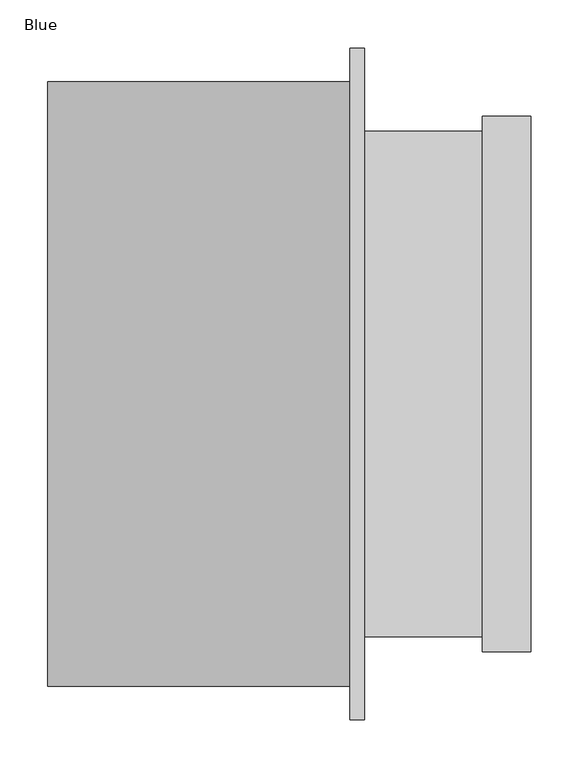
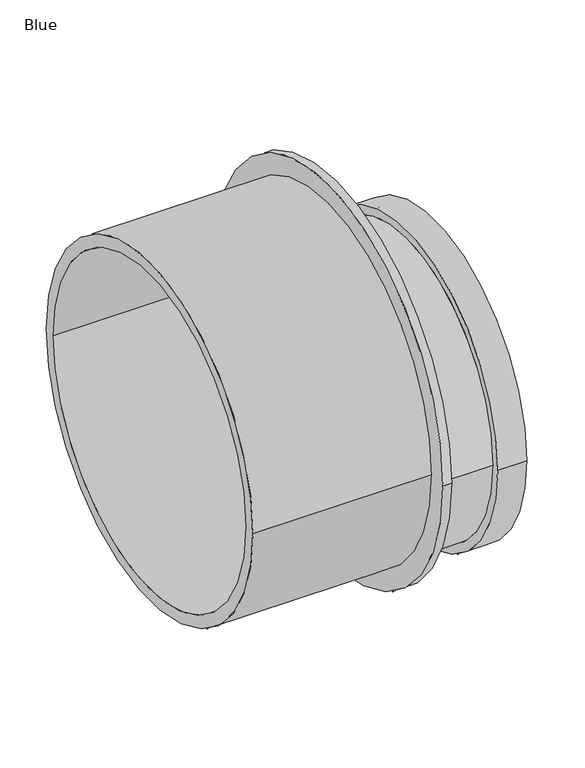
"""IFC4 building model written with IfcOpenShell, lengths in millimetres: pipe fitting geometry, AWADUKT PP Transition : Blue."""

from ifc_helpers import new_model, si_unit, point, frame, frame_2d, origin, origin_2d, place, context, project, spatial, polyline, circle_curve, trimmed, segment, composite_curve, outline, extrude, source, transform, mapped, element, save
from ifc_brep_helpers import plane_surface, cylinder_surface, revolved_surface, advanced_brep


def blue_be33dc46(model_context):
    return source(origin(), model_context, "Body", "SolidModel", [
        extrude(outline(composite_curve([segment(trimmed(circle_curve(origin_2d(), 350.0), [point((-350.0, 0.0))], [point((350.0, 0.0))], False, "CARTESIAN"), True, "CONTINUOUS"), segment(trimmed(circle_curve(origin_2d(), 350.0), [point((350.0, 0.0))], [point((-350.0, 0.0))], False, "CARTESIAN"), True, "CONTINUOUS")], self_intersect=False), holes=[composite_curve([segment(trimmed(circle_curve(frame_2d((0.0, -61.9)), 233.05), [point((-233.05, -61.9))], [point((233.05, -61.9))], True, "CARTESIAN"), True, "CONTINUOUS"), segment(trimmed(circle_curve(frame_2d((0.0, -61.9)), 233.05), [point((233.05, -61.9))], [point((-233.05, -61.9))], True, "CARTESIAN"), True, "CONTINUOUS")], self_intersect=False)]), frame((326.0, 0.0, 0.0), z_axis=(1.0, 0.0, 0.0), x_axis=(0.0, 1.0, 0.0)), (0.0, 0.0, 1.0), 15.0),
        advanced_brep(
        [(463.7, -263.2, -61.9), (463.7, 263.2, -61.9), (341.0, 263.2, -61.9), (341.0, -263.2, -61.9), (514.5, -278.9, -61.9), (514.5, 278.9, -61.9), (463.7, 278.9, -61.9), (463.7, -278.9, -61.9), (501.3, -250.0, -61.9), (501.3, 250.0, -61.9), (514.5, 250.0, -61.9), (514.5, -250.0, -61.9), (476.9, -263.2, -61.9), (476.9, 263.2, -61.9), (501.3, 263.2, -61.9), (501.3, -263.2, -61.9), (341.0, -250.0, -61.9), (341.0, 250.0, -61.9), (476.9, 250.0, -61.9), (476.9, -250.0, -61.9)],
        [
            (0, 1, circle_curve(frame((463.7, 0.0, -61.9), z_axis=(-1.0, 0.0, 0.0), x_axis=(0.0, 1.0, 0.0)), 263.2)),
            (1, 2),
            (2, 3, circle_curve(frame((341.0, 0.0, -61.9), z_axis=(1.0, 0.0, 0.0), x_axis=(0.0, 1.0, 0.0)), 263.2)),
            (3, 0),
            (4, 5, circle_curve(frame((514.5, 0.0, -61.9), z_axis=(-1.0, 0.0, 0.0), x_axis=(0.0, 1.0, 0.0)), 278.9)),
            (5, 6),
            (6, 7, circle_curve(frame((463.7, 0.0, -61.9), z_axis=(1.0, 0.0, 0.0), x_axis=(0.0, 1.0, 0.0)), 278.9)),
            (7, 4),
            (8, 9, circle_curve(frame((501.3, 0.0, -61.9), z_axis=(-1.0, 0.0, 0.0), x_axis=(0.0, 1.0, 0.0)), 250.0)),
            (9, 10),
            (10, 11, circle_curve(frame((514.5, 0.0, -61.9), z_axis=(1.0, 0.0, 0.0), x_axis=(0.0, 1.0, 0.0)), 250.0)),
            (11, 8),
            (12, 13, circle_curve(frame((476.9, 0.0, -61.9), z_axis=(-1.0, 0.0, 0.0), x_axis=(0.0, 1.0, 0.0)), 263.2)),
            (13, 14),
            (14, 15, circle_curve(frame((501.3, 0.0, -61.9), z_axis=(1.0, 0.0, 0.0), x_axis=(0.0, 1.0, 0.0)), 263.2)),
            (15, 12),
            (16, 17, circle_curve(frame((341.0, 0.0, -61.9), z_axis=(-1.0, 0.0, 0.0), x_axis=(0.0, 1.0, 0.0)), 250.0)),
            (17, 18),
            (18, 19, circle_curve(frame((476.9, 0.0, -61.9), z_axis=(1.0, 0.0, 0.0), x_axis=(0.0, 1.0, 0.0)), 250.0)),
            (19, 16),
            (2, 3, circle_curve(frame((341.0, 0.0, -61.9), z_axis=(-1.0, 0.0, 0.0), x_axis=(0.0, -1.0, 0.0)), 263.2)),
            (16, 17, circle_curve(frame((341.0, 0.0, -61.9), z_axis=(1.0, 0.0, 0.0), x_axis=(0.0, -1.0, 0.0)), 250.0)),
            (1, 0, circle_curve(frame((463.7, 0.0, -61.9), z_axis=(-1.0, 0.0, 0.0), x_axis=(0.0, -1.0, 0.0)), 263.2)),
            (6, 7, circle_curve(frame((463.7, 0.0, -61.9), z_axis=(-1.0, 0.0, 0.0), x_axis=(0.0, -1.0, 0.0)), 278.9)),
            (5, 4, circle_curve(frame((514.5, 0.0, -61.9), z_axis=(-1.0, 0.0, 0.0), x_axis=(0.0, -1.0, 0.0)), 278.9)),
            (10, 11, circle_curve(frame((514.5, 0.0, -61.9), z_axis=(-1.0, 0.0, 0.0), x_axis=(0.0, -1.0, 0.0)), 250.0)),
            (9, 8, circle_curve(frame((501.3, 0.0, -61.9), z_axis=(-1.0, 0.0, 0.0), x_axis=(0.0, -1.0, 0.0)), 250.0)),
            (14, 15, circle_curve(frame((501.3, 0.0, -61.9), z_axis=(-1.0, 0.0, 0.0), x_axis=(0.0, -1.0, 0.0)), 263.2)),
            (13, 12, circle_curve(frame((476.9, 0.0, -61.9), z_axis=(-1.0, 0.0, 0.0), x_axis=(0.0, -1.0, 0.0)), 263.2)),
            (18, 19, circle_curve(frame((476.9, 0.0, -61.9), z_axis=(-1.0, 0.0, 0.0), x_axis=(0.0, -1.0, 0.0)), 250.0)),
        ],
        [
            cylinder_surface(frame((341.0, 0.0, -61.9), z_axis=(1.0, 0.0, 0.0), x_axis=(0.0, 1.0, 0.0)), 263.2),
            cylinder_surface(frame((341.0, 0.0, -61.9), z_axis=(1.0, 0.0, 0.0), x_axis=(0.0, 1.0, 0.0)), 278.9),
            revolved_surface(polyline([(514.5, 250.0, -61.9), (501.3, 250.0, -61.9)]), (341.0, 0.0, -61.9), (1.0, 0.0, 0.0)),
            revolved_surface(polyline([(501.3, 263.2, -61.9), (476.9, 263.2, -61.9)]), (341.0, 0.0, -61.9), (1.0, 0.0, 0.0)),
            revolved_surface(polyline([(476.9, 250.0, -61.9), (341.0, 250.0, -61.9)]), (341.0, 0.0, -61.9), (1.0, 0.0, 0.0)),
            plane_surface(frame((341.0, 0.0, -61.9), z_axis=(-1.0, 0.0, 0.0), x_axis=(0.0, -1.0, 0.0))),
            cylinder_surface(frame((341.0, 0.0, -61.9), z_axis=(1.0, 0.0, 0.0), x_axis=(0.0, -1.0, 0.0)), 263.2),
            plane_surface(frame((463.7, 0.0, -61.9), z_axis=(-1.0, 0.0, 0.0), x_axis=(0.0, -1.0, 0.0))),
            cylinder_surface(frame((341.0, 0.0, -61.9), z_axis=(1.0, 0.0, 0.0), x_axis=(0.0, -1.0, 0.0)), 278.9),
            plane_surface(frame((514.5, 0.0, -61.9), z_axis=(1.0, 0.0, 0.0), x_axis=(0.0, -1.0, 0.0))),
            revolved_surface(polyline([(514.5, -250.0, -61.9), (501.3, -250.0, -61.9)]), (341.0, 0.0, -61.9), (1.0, 0.0, 0.0)),
            plane_surface(frame((501.3, 0.0, -61.9), z_axis=(-1.0, 0.0, 0.0), x_axis=(0.0, -1.0, 0.0))),
            revolved_surface(polyline([(501.3, -263.2, -61.9), (476.9, -263.2, -61.9)]), (341.0, 0.0, -61.9), (1.0, 0.0, 0.0)),
            plane_surface(frame((476.9, 0.0, -61.9), z_axis=(1.0, 0.0, 0.0), x_axis=(0.0, -1.0, 0.0))),
            revolved_surface(polyline([(476.9, -250.0, -61.9), (341.0, -250.0, -61.9)]), (341.0, 0.0, -61.9), (1.0, 0.0, 0.0)),
        ],
        [
            (0, [[1, 2, 3, 4]]),
            (1, [[5, 6, 7, 8]]),
            (2, [[9, 10, 11, 12]]),
            (3, [[13, 14, 15, 16]]),
            (4, [[17, 18, 19, 20]]),
            (5, [[21, -3], [22, -17]]),
            (6, [[23, -4, -21, -2]]),
            (7, [[24, -7], [-23, -1]]),
            (8, [[25, -8, -24, -6]]),
            (9, [[-25, -5], [26, -11]]),
            (10, [[27, -12, -26, -10]]),
            (11, [[28, -15], [-27, -9]]),
            (12, [[29, -16, -28, -14]]),
            (13, [[-29, -13], [30, -19]]),
            (14, [[-22, -20, -30, -18]]),
        ],
    ),
        extrude(outline(composite_curve([segment(trimmed(circle_curve(origin_2d(), 315.0), [point((-315.0, 0.0))], [point((315.0, 0.0))], False, "CARTESIAN"), True, "CONTINUOUS"), segment(trimmed(circle_curve(origin_2d(), 315.0), [point((315.0, 0.0))], [point((-315.0, 0.0))], False, "CARTESIAN"), True, "CONTINUOUS")], self_intersect=False), holes=[composite_curve([segment(trimmed(circle_curve(origin_2d(), 293.4), [point((293.4, 0.0))], [point((-293.4, 0.0))], True, "CARTESIAN"), True, "CONTINUOUS"), segment(trimmed(circle_curve(origin_2d(), 293.4), [point((-293.4, 0.0))], [point((293.4, 0.0))], True, "CARTESIAN"), True, "CONTINUOUS")], self_intersect=False)]), frame((11.0, 0.0, 0.0), z_axis=(1.0, 0.0, 0.0), x_axis=(0.0, 1.0, 0.0)), (0.0, 0.0, 1.0), 315.0),
    ])


if __name__ == "__main__":
    model = new_model("IFC4")
    model_context = context("Model", 3, world=origin())
    ifc_project = project(units=[si_unit("LENGTHUNIT", "METRE", prefix="MILLI")], contexts=[model_context])
    site = spatial("IfcSite", under=ifc_project)
    building = spatial("IfcBuilding", under=site)
    placement = place(None, origin())
    blue_shape = blue_be33dc46(model_context)
    element("IfcPipeFitting", 1, ObjectType="AWADUKT PP Transition : Blue", at=placement, inside=building, context=model_context, shape_type="MappedRepresentation", body=[
        mapped(blue_shape, transform((0.0, 0.0, 0.0), x_axis=(1.0, 0.0, 0.0), y_axis=(0.0, 1.0, 0.0), z_axis=(0.0, 0.0, 1.0))),
    ])
    save(model, "model.ifc")
